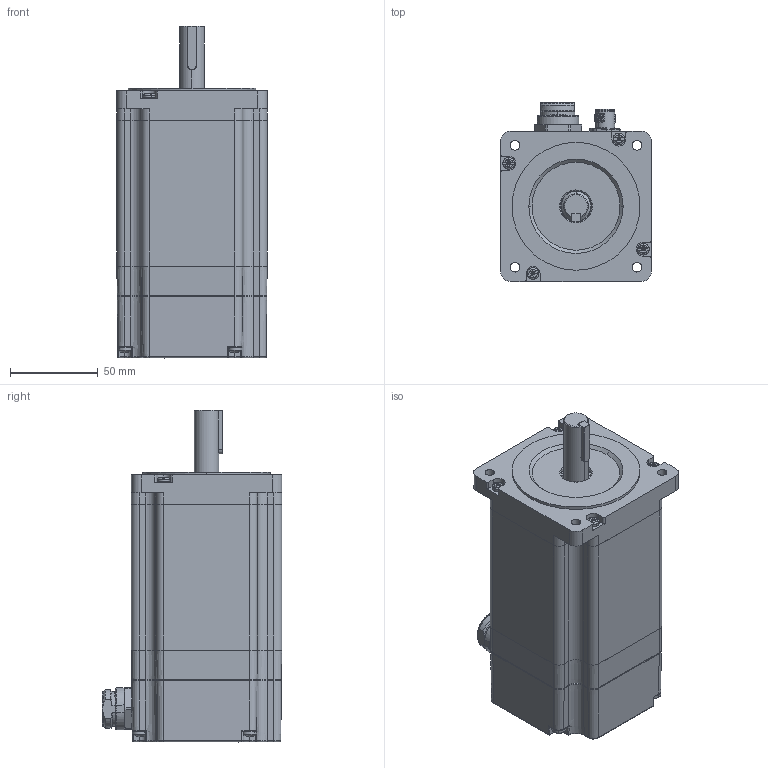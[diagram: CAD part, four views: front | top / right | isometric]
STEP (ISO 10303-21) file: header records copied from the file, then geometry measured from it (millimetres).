
FILE_DESCRIPTION (( 'STEP AP214' ), '1' );
FILE_NAME ('M86SH118-TM1611S05C.STEP', '2025-12-18T08:28:52', ( '' ), ( '' ), 'SwSTEP 2.0', 'SolidWorks 2019', '' );
FILE_SCHEMA (( 'AUTOMOTIVE_DESIGN' ));
Length unit declared in the file: millimetre
Products named in the file (1): M86SH118-TM1611S05C
Bounding box: 85.9 x 102.59 x 189.55 mm (x, y, z)
Volume: 610362.8 mm3; surface area: 185817.9 mm2
Topology: 29 solids, 29 shells, 2154 faces, 5587 edges, 3596 vertices
Faces by surface type: plane 1073, cylinder 475, bspline 323, cone 173, torus 94, sphere 16
Entity records: 105920 total; most frequent: CARTESIAN_POINT 30504, ORIENTED_EDGE 11096, DIRECTION 9942, EDGE_CURVE 5548, VERTEX_POINT 3596, AXIS2_PLACEMENT_3D 3393, LINE 3156, VECTOR 3156
